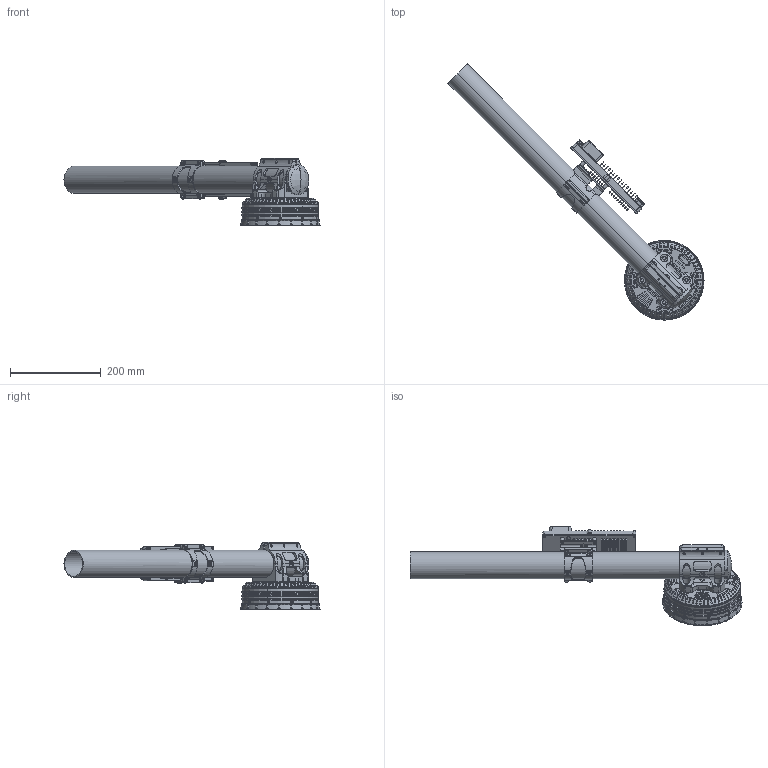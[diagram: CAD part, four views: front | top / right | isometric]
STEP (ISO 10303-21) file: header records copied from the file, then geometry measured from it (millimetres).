
FILE_DESCRIPTION (( 'STEP AP214' ), '1' );
FILE_NAME ('A16.STEP', '2026-03-17T01:40:56', ( '' ), ( '' ), 'SwSTEP 2.0', 'SolidWorks 2022', '' );
FILE_SCHEMA (( 'AUTOMOTIVE_DESIGN' ));
Length unit declared in the file: millimetre
Products named in the file (1): A16
Bounding box: 565.14 x 565.14 x 149.85 mm (x, y, z)
Volume: 2063557.3 mm3; surface area: 738455.2 mm2
Topology: 17 solids, 24 shells, 5621 faces, 14276 edges, 8678 vertices
Faces by surface type: cylinder 2541, plane 1260, bspline 1061, cone 474, torus 197, sphere 88
Entity records: 230366 total; most frequent: CARTESIAN_POINT 80361, ORIENTED_EDGE 28374, DIRECTION 24383, EDGE_CURVE 14187, AXIS2_PLACEMENT_3D 9346, VERTEX_POINT 8678, EDGE_LOOP 6117, LINE 5691
